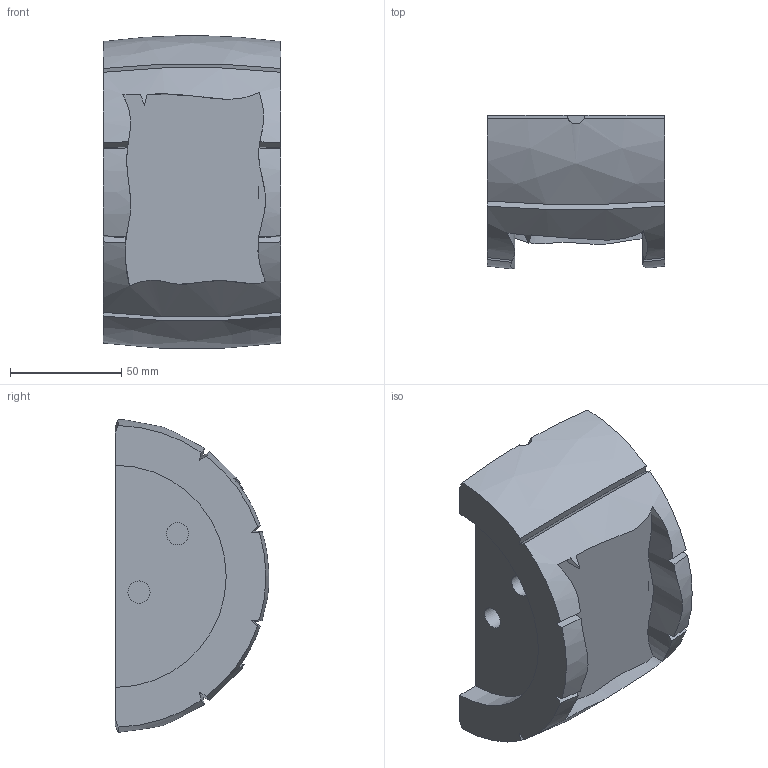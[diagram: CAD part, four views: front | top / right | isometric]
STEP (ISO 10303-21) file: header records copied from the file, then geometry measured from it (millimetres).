
FILE_DESCRIPTION(/* description */ (''),/* implementation_level */ '2;1');
FILE_NAME(/* name */ 'Mid Front.step',/* time_stamp */ '2024-01-09T11:29:58-05:00',/* author */ (''),/* organization */ (''),/* preprocessor_version */ 'ST-DEVELOPER v20',/* originating_system */ 'Autodesk Translation Framework v12.14.0.127',/* authorisation */ '');
FILE_SCHEMA (('AUTOMOTIVE_DESIGN { 1 0 10303 214 3 1 1 }'));
Length unit declared in the file: millimetre
Products named in the file (1): Mid Front
Bounding box: 80 x 69.18 x 140.74 mm (x, y, z)
Volume: 448864.5 mm3; surface area: 48824 mm2
Topology: 1 solids, 1 shells, 46 faces, 122 edges, 82 vertices
Faces by surface type: bspline 25, plane 14, cylinder 7
Full cylindrical faces by diameter (mm): 10 x4
Entity records: 2049 total; most frequent: CARTESIAN_POINT 1042, ORIENTED_EDGE 248, DIRECTION 139, EDGE_CURVE 124, VERTEX_POINT 82, B_SPLINE_CURVE_WITH_KNOTS 57, AXIS2_PLACEMENT_3D 55, EDGE_LOOP 50
